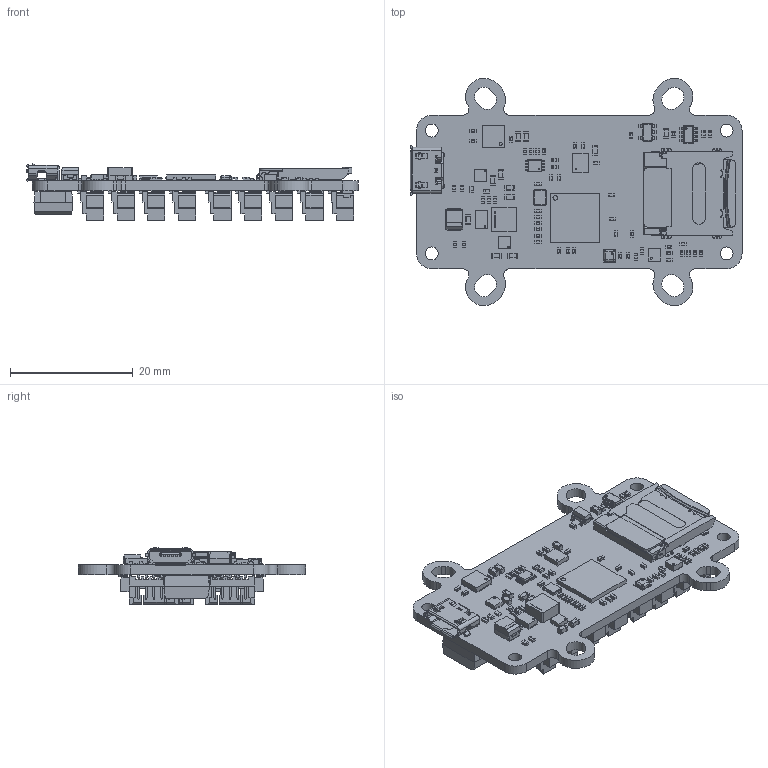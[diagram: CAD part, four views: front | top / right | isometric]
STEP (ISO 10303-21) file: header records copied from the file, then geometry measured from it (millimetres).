
FILE_DESCRIPTION(('KiCad electronic assembly'),'2;1');
FILE_NAME('Tawaki_v100.step','2019-06-12T11:07:27',('An Author'),( 'A Company'),'Open CASCADE STEP processor 6.9', 'KiCad to STEP converter','Unknown');
FILE_SCHEMA(('AUTOMOTIVE_DESIGN { 1 0 10303 214 1 1 1 1 }'));
Length unit declared in the file: millimetre
Products named in the file (60): Open CASCADE STEP translator 6.9 1; MicroSD_500901-0801; SOLID; MicroSD_500901-0801_Card; COMPOUND; BMP388; PCA9306DCU; LIS3MDL; XFL4020; TPS7A84ARGR; TFBGA100_8x8_P0.8; LP5912DRV; VQFN11-HR; CRYSTAL_8Z; C_0603; C_0402; PicoBlade_53398-0571; USB_Micro-B_Molex_105017-0001; PicoBlade_53398-0371; KP-1608SYC; KP-1608CGCK; KP-1608SEC; KP-1608SURC; PicoBlade_53398-0771; ICM-20600; EIA_3528-21; PMEG3010AESB; SOT23-5; R_0402; MAX3051EKA; EIA_7360-38; PicoBlade_53398-0271
Assembly tree (133 placements, depth 3):
  Open CASCADE STEP translator 6.9 1
    MicroSD_500901-0801
      SOLID
    MicroSD_500901-0801_Card
      COMPOUND
    BMP388
      SOLID
    PCA9306DCU
      SOLID
    LIS3MDL
      SOLID
    XFL4020
      SOLID
    TPS7A84ARGR
      COMPOUND
    TFBGA100_8x8_P0.8
      SOLID
    LP5912DRV  x2
      COMPOUND
    VQFN11-HR
      COMPOUND
    CRYSTAL_8Z
      SOLID
    C_0603  x11
      SOLID
    C_0402  x31
      SOLID
    PicoBlade_53398-0571  x8
      SOLID
    USB_Micro-B_Molex_105017-0001
      SOLID
    PicoBlade_53398-0371  x4
      SOLID
    KP-1608SYC
      SOLID
    KP-1608CGCK
      SOLID
    KP-1608SEC
      SOLID
    KP-1608SURC
      SOLID
    PicoBlade_53398-0771  x4
      SOLID
    ICM-20600
      SOLID
    EIA_3528-21
      SOLID
    PMEG3010AESB  x2
      SOLID
    SOT23-5
      SOLID
    R_0402  x20
      SOLID
    MAX3051EKA
      SOLID
    EIA_7360-38
      COMPOUND
    PicoBlade_53398-0271
      SOLID
    COMPOUND
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Bounding box: 54.05 x 36.99 x 9.16 mm (x, y, z)
Volume: 4360.6 mm3; surface area: 11659.1 mm2
Topology: 158 solids, 192 shells, 10298 faces, 27803 edges, 18108 vertices
Faces by surface type: plane 8571, cylinder 1434, sphere 216, bspline 70, torus 6, cone 1
Full cylindrical faces by diameter (mm): 0.2 x1, 0.25 x1, 0.35 x1, 0.85 x2, 2.1 x4
Entity records: 360280 total; most frequent: CARTESIAN_POINT 79320, DIRECTION 48365, LINE 33813, VECTOR 33813, ORIENTED_EDGE 25926, PCURVE 25926, DEFINITIONAL_REPRESENTATION 25926, EDGE_CURVE 12963
